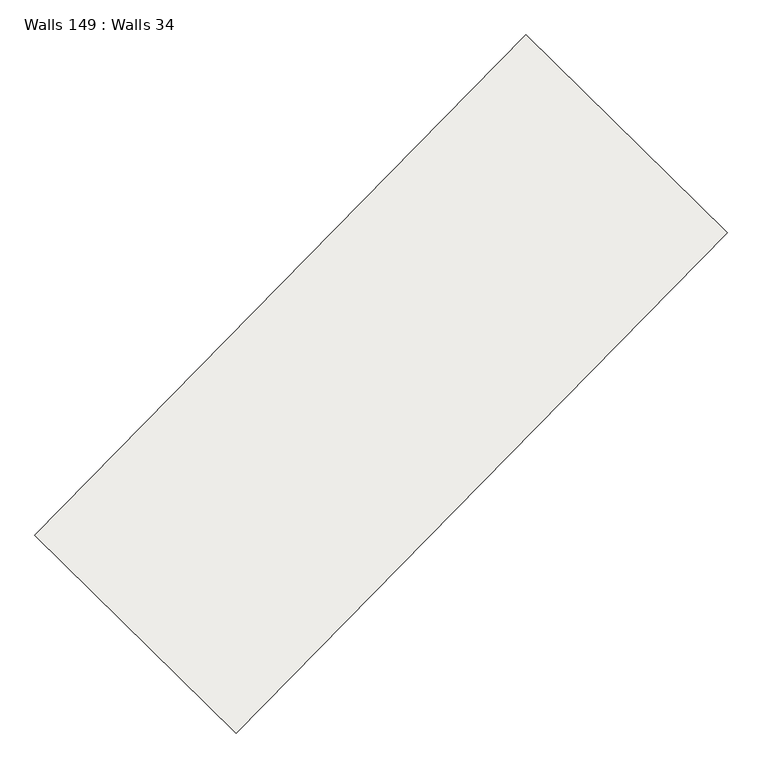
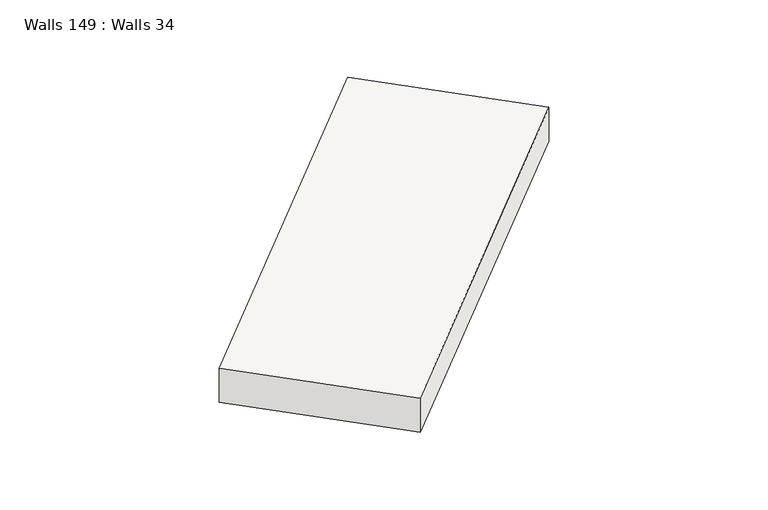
"""IFC4 building model written with IfcOpenShell, lengths in millimetres: slab geometry, Walls 149 : Walls 34."""

import ifcopenshell
import ifcopenshell.guid

model = None  # the IFC model being written
_history = None  # IfcOwnerHistory: only IFC2X3 demands one
_inside = {}  # id of a spatial element -> (the spatial element, [elements in it])
_under = {}  # id of a project, library or spatial element -> (it, [spatial elements below it])
_declared = {}  # id of a project -> (the project, [libraries it declares])
_typed = {}  # id of a type object -> (the type object, [elements of that type])
_made_of = {}  # id of a material, layer set ... -> (it, [elements and type objects made of it])


def new_model(schema):
    """Start an empty IFC model of exactly this schema.

    Asked for "IFC4X3", IfcOpenShell would pick the latest addendum, in which some entities
    have other attributes; the version numbers below select the first issue.
    IFC2X3 requires an IfcOwnerHistory on every rooted entity: one is made here for all.
    """
    global model, _history
    if schema == "IFC4X3":
        model = ifcopenshell.file(schema_version=(4, 3, 0, 0))
    else:
        model = ifcopenshell.file(schema=schema)
    _inside.clear()
    _under.clear()
    _declared.clear()
    _typed.clear()
    _made_of.clear()
    _history = None
    if model.schema == "IFC2X3":
        org = make("IfcOrganization", Name="unknown")
        user = make(
            "IfcPersonAndOrganization",
            ThePerson=make("IfcPerson", FamilyName="unknown"),
            TheOrganization=org,
        )
        app = make(
            "IfcApplication",
            ApplicationDeveloper=org,
            Version="unknown",
            ApplicationFullName="unknown",
            ApplicationIdentifier="unknown",
        )
        _history = make(
            "IfcOwnerHistory",
            OwningUser=user,
            OwningApplication=app,
            ChangeAction="ADDED",
            CreationDate=0,
        )
    return model


def make(cls, **values):
    """One entity of the class cls with the attributes given. An attribute that is None is left unset."""
    return model.create_entity(
        cls, **{name: value for name, value in values.items() if value is not None}
    )


def rooted(cls, **values):
    """An entity with a GlobalId (a new one), such as an element, a storey or a relation."""
    return make(cls, GlobalId=ifcopenshell.guid.new(), OwnerHistory=_history, **values)


def si_unit(unit_type, name, prefix=None):
    """IfcSIUnit, for example si_unit("LENGTHUNIT", "METRE", prefix="MILLI")."""
    return make("IfcSIUnit", UnitType=unit_type, Prefix=prefix, Name=name)


def assignment(units):
    """IfcUnitAssignment: the units of a project."""
    return None if units is None else make("IfcUnitAssignment", Units=units)


def point(xyz):
    """IfcCartesianPoint."""
    return None if xyz is None else make("IfcCartesianPoint", Coordinates=xyz)


def direction(xyz):
    """IfcDirection."""
    return None if xyz is None else make("IfcDirection", DirectionRatios=xyz)


def frame(location, z_axis=None, x_axis=None):
    """IfcAxis2Placement3D, a coordinate frame: its origin and axes. An axis left out is left unset."""
    return make(
        "IfcAxis2Placement3D",
        Location=point(location),
        Axis=direction(z_axis),
        RefDirection=direction(x_axis),
    )


def origin():
    """The frame at (0, 0, 0) with its axes left unset."""
    return frame((0.0, 0.0, 0.0))


def place(relative_to, where):
    """IfcLocalPlacement: puts the frame where relative to a parent placement (None: the world)."""
    return make(
        "IfcLocalPlacement", PlacementRelTo=relative_to, RelativePlacement=where
    )


def context(
    kind, dimensions, precision=None, world=None, true_north=None, identifier=None
):
    """IfcGeometricRepresentationContext, for example the 3D "Model" context."""
    return make(
        "IfcGeometricRepresentationContext",
        ContextIdentifier=identifier,
        ContextType=kind,
        CoordinateSpaceDimension=dimensions,
        Precision=precision,
        WorldCoordinateSystem=world,
        TrueNorth=true_north,
    )


def project(units=None, contexts=None):
    """IfcProject with its units and contexts."""
    return rooted(
        "IfcProject",
        Name="project",
        RepresentationContexts=contexts,
        UnitsInContext=assignment(units),
    )


def spatial(cls, under=None, at=None, **own):
    """A site, building, storey or space (cls), placed at a placement, below another one or the project."""
    s = rooted(cls, ObjectPlacement=at, **own)
    if under is not None:
        _under.setdefault(under.id(), (under, []))[1].append(s)
    return s


def polyline(points):
    """IfcPolyline through the points."""
    return make("IfcPolyline", Points=[point(p) for p in points])


def outline(outer, holes=None, kind="AREA"):
    """IfcArbitraryClosedProfileDef: a profile drawn as a closed curve; with holes, ...WithVoids."""
    if holes is None:
        return make("IfcArbitraryClosedProfileDef", ProfileType=kind, OuterCurve=outer)
    return make(
        "IfcArbitraryProfileDefWithVoids",
        ProfileType=kind,
        OuterCurve=outer,
        InnerCurves=holes,
    )


def extrude(swept, where, along, depth):
    """IfcExtrudedAreaSolid: the profile swept, set in the frame where, extruded along a direction by depth."""
    return make(
        "IfcExtrudedAreaSolid",
        SweptArea=swept,
        Position=where,
        ExtrudedDirection=direction(along),
        Depth=depth,
    )


def shape(context_of_items, identifier, shape_type, items):
    """IfcShapeRepresentation: the items that make up one representation, for example the "Body"."""
    return make(
        "IfcShapeRepresentation",
        ContextOfItems=context_of_items,
        RepresentationIdentifier=identifier,
        RepresentationType=shape_type,
        Items=items,
    )


def source(mapping_origin, context_of_items, identifier, shape_type, items):
    """IfcRepresentationMap: a shape defined once, which mapped items show again and again."""
    return make(
        "IfcRepresentationMap",
        MappingOrigin=mapping_origin,
        MappedRepresentation=shape(context_of_items, identifier, shape_type, items),
    )


def transform(
    local_origin,
    x_axis=None,
    y_axis=None,
    z_axis=None,
    scale=None,
    scale2=None,
    scale3=None,
    uniform=True,
):
    """IfcCartesianTransformationOperator3D, or its non-uniform kind. x_axis, y_axis, z_axis: its Axis1, 2, 3."""
    if uniform:
        return make(
            "IfcCartesianTransformationOperator3D",
            Axis1=direction(x_axis),
            Axis2=direction(y_axis),
            LocalOrigin=point(local_origin),
            Scale=scale,
            Axis3=direction(z_axis),
        )
    return make(
        "IfcCartesianTransformationOperator3DnonUniform",
        Axis1=direction(x_axis),
        Axis2=direction(y_axis),
        LocalOrigin=point(local_origin),
        Scale=scale,
        Axis3=direction(z_axis),
        Scale2=scale2,
        Scale3=scale3,
    )


def mapped(mapping_source, mapping_target):
    """IfcMappedItem: shows the shape of a source again, moved by a transform."""
    return make(
        "IfcMappedItem", MappingSource=mapping_source, MappingTarget=mapping_target
    )


def made_of(thing, what):
    """Note that an element or type object is made of a material, layer set ...; save() writes the relation."""
    if what is not None:
        _made_of.setdefault(what.id(), (what, []))[1].append(thing)
    return thing


def element(
    cls,
    number,
    at=None,
    inside=None,
    cuts=None,
    type_object=None,
    material=None,
    context=None,
    identifier="Body",
    shape_type=None,
    held_by="IfcProductDefinitionShape",
    body=None,
    shapes=None,
    **own,
):
    """One element of the class cls, such as IfcWall. Its Tag is "e" and its number.

    at: its placement. inside: the storey or other place that contains it. cuts: it is an
    opening in that element (IfcRelVoidsElement). A single representation is given by context,
    identifier, shape_type and body (its items); several are given by shapes. held_by: the class
    of the entity that holds the representations. save() writes the other relations.
    """
    e = rooted(cls, Tag="e%d" % number, ObjectPlacement=at, **own)
    if body is not None:
        shapes = [shape(context, identifier, shape_type, body)]
    if shapes is not None:
        e.Representation = make(held_by, Representations=shapes)
    if inside is not None:
        _inside.setdefault(inside.id(), (inside, []))[1].append(e)
    if cuts is not None:
        rooted(
            "IfcRelVoidsElement", RelatingBuildingElement=cuts, RelatedOpeningElement=e
        )
    if type_object is not None:
        _typed.setdefault(type_object.id(), (type_object, []))[1].append(e)
    return made_of(e, material)


def aggregate(whole, parts):
    """IfcRelAggregates: a whole, such as a stair, and the parts it consists of."""
    return rooted("IfcRelAggregates", RelatingObject=whole, RelatedObjects=parts)


def save(model, path):
    """Write the relations noted so far, then the file.

    IfcRelAggregates (storeys below a building ...), IfcRelContainedInSpatialStructure (elements
    in a storey), IfcRelDefinesByType, IfcRelAssociatesMaterial and IfcRelDeclares: one each for
    every whole, place, type object, material and project.
    """
    for whole, parts in _under.values():
        aggregate(whole, parts)
    for where, things in _inside.values():
        rooted(
            "IfcRelContainedInSpatialStructure",
            RelatedElements=things,
            RelatingStructure=where,
        )
    for kind, things in _typed.values():
        rooted("IfcRelDefinesByType", RelatedObjects=things, RelatingType=kind)
    for what, things in _made_of.values():
        rooted("IfcRelAssociatesMaterial", RelatedObjects=things, RelatingMaterial=what)
    for by, libraries in _declared.values():
        rooted("IfcRelDeclares", RelatingContext=by, RelatedDefinitions=libraries)
    model.write(path)


def walls_149_walls_34_4910ad20(model_context):
    return source(origin(), model_context, "Body", "SweptSolid", [
        extrude(outline(polyline([(-350.0, 0.0), (350.0, 0.0), (260.0, -8700.0000029), (-440.0, -8700.0000029), (-350.0, 0.0)])), frame((-176736.2186868, -339299.9101777, 635880.0), z_axis=(-0.7136987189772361, 0.7004528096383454, 0.0), x_axis=(0.0, 0.0, 1.0)), (0.0, 0.0, 1.0), 3500.0),
    ])


if __name__ == "__main__":
    model = new_model("IFC4")
    model_context = context("Model", 3, world=origin())
    ifc_project = project(units=[si_unit("LENGTHUNIT", "METRE", prefix="MILLI")], contexts=[model_context])
    site = spatial("IfcSite", under=ifc_project)
    building = spatial("IfcBuilding", under=site)
    placement = place(None, origin())
    walls_149_walls_34_shape = walls_149_walls_34_4910ad20(model_context)
    element("IfcSlab", 1, ObjectType="Walls 149 : Walls 34", at=placement, inside=building, context=model_context, shape_type="MappedRepresentation", body=[
        mapped(walls_149_walls_34_shape, transform((0.0, 0.0, 0.0), x_axis=(1.0, 0.0, 0.0), y_axis=(0.0, 1.0, 0.0), z_axis=(0.0, 0.0, 1.0))),
    ])
    save(model, "model.ifc")
